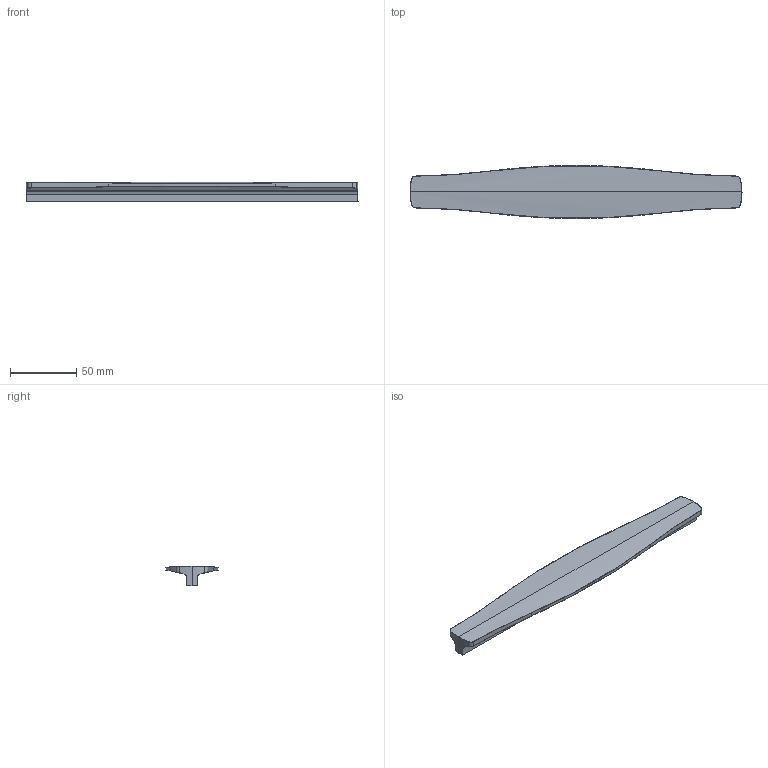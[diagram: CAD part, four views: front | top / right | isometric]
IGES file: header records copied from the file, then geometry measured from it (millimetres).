
Start section: C
Global section: file name: 8337-250.igs; native system: By Siemens PLM Incorporated; preprocessor: XPlus GENERIC/IGES 16.0.42; author: Author; organization: Title; date: 20230831.102740; units: millimetre
Bounding box: 250 x 39.95 x 15 mm (x, y, z)
Surface area: 21965.7 mm2 (no closed solid volume)
Topology: 0 solids, 0 shells, 60 faces, 280 edges, 280 vertices
Faces by surface type: bspline 60
